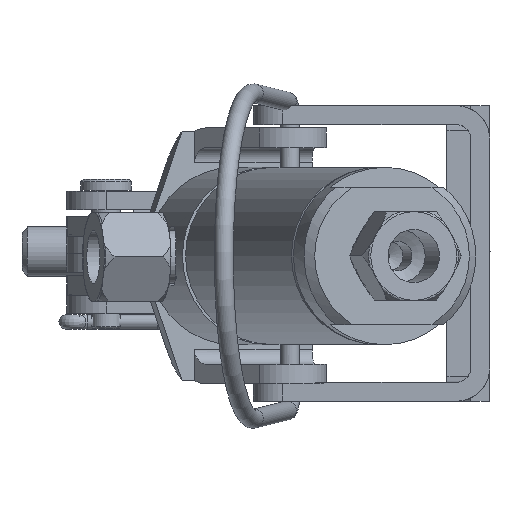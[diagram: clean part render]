
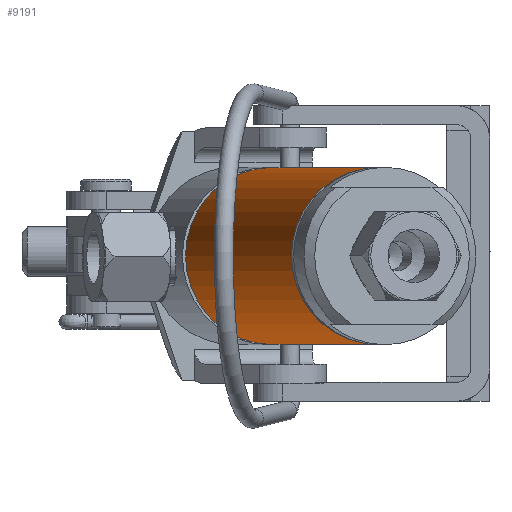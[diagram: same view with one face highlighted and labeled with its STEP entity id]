
A CAD part, left-side view. The second image highlights one B-rep face of the part: STEP entity #9191.
In plain terms, the highlighted cylindrical face has radius 14.199 mm (diameter 28.397 mm), a full revolution.
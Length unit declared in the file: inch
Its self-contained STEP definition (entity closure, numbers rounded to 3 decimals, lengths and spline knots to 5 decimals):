
#1192=FACE_BOUND('',#2913,.T.);
#1644=CYLINDRICAL_SURFACE('',#10146,0.559);
#2173=FACE_OUTER_BOUND('',#2912,.T.);
#2912=EDGE_LOOP('',(#7633));
#2913=EDGE_LOOP('',(#7634));
#3764=CIRCLE('',#10145,0.559);
#3765=CIRCLE('',#10147,0.559);
#4488=VERTEX_POINT('',#17437);
#4489=VERTEX_POINT('',#17440);
#5611=EDGE_CURVE('',#4488,#4488,#3764,.T.);
#5612=EDGE_CURVE('',#4489,#4489,#3765,.T.);
#7633=ORIENTED_EDGE('',*,*,#5611,.F.);
#7634=ORIENTED_EDGE('',*,*,#5612,.T.);
#9191=ADVANCED_FACE('',(#2173,#1192),#1644,.T.);
#10145=AXIS2_PLACEMENT_3D('',#17438,#12247,#12248);
#10146=AXIS2_PLACEMENT_3D('',#17439,#12249,#12250);
#10147=AXIS2_PLACEMENT_3D('',#17441,#12251,#12252);
#12247=DIRECTION('center_axis',(-0.969,-0.247,0.));
#12248=DIRECTION('ref_axis',(0.247,-0.969,0.));
#12249=DIRECTION('center_axis',(0.969,0.247,0.));
#12250=DIRECTION('ref_axis',(0.247,-0.969,0.));
#12251=DIRECTION('center_axis',(-0.969,-0.247,0.));
#12252=DIRECTION('ref_axis',(0.247,-0.969,0.));
#17437=CARTESIAN_POINT('',(13.93795,6.46254,2.14136));
#17438=CARTESIAN_POINT('Origin',(13.79993,7.00423,2.14136));
#17439=CARTESIAN_POINT('Origin',(13.42201,6.90794,2.14136));
#17440=CARTESIAN_POINT('',(16.57568,7.13461,2.14136));
#17441=CARTESIAN_POINT('Origin',(16.43766,7.6763,2.14136));
